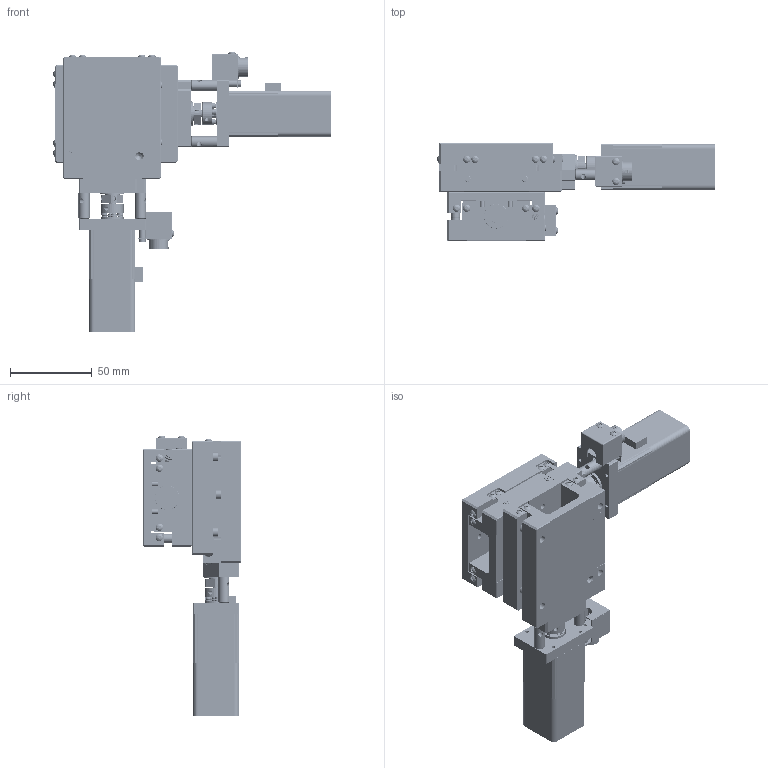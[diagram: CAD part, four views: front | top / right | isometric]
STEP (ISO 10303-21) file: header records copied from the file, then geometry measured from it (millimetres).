
FILE_DESCRIPTION (( 'STEP AP214' ), '1' );
FILE_NAME ('TYS6030B-L1-MC28L.STEP', '2025-01-03T09:09:38', ( '' ), ( '' ), 'SwSTEP 2.0', 'SolidWorks 2020', '' );
FILE_SCHEMA (( 'AUTOMOTIVE_DESIGN' ));
Length unit declared in the file: millimetre
Products named in the file (5): TXS6030B-L1-MC28L-掛极; TYS6030B-L1-MC28L; TXS6030B-L1-MC28L; 28HSM006-E1
Assembly tree (6 placements, depth 3):
  TYS6030B-L1-MC28L
    TXS6030B-L1-MC28L
      TXS6030B-L1-MC28L-掛极
      28HSM006-E1
    TXS6030B-L1-MC28L
      TXS6030B-L1-MC28L-掛极
      28HSM006-E1
Bounding box: 169.93 x 60 x 171.78 mm (x, y, z)
Volume: 357909.9 mm3; surface area: 143143.3 mm2
Topology: 174 solids, 174 shells, 4092 faces, 10688 edges, 6842 vertices
Faces by surface type: plane 1988, cylinder 1352, cone 368, torus 176, bspline 136, sphere 72
Entity records: 69129 total; most frequent: CARTESIAN_POINT 17951, DIRECTION 10556, ORIENTED_EDGE 10366, EDGE_CURVE 5183, AXIS2_PLACEMENT_3D 3968, VERTEX_POINT 3421, LINE 2620, VECTOR 2620
